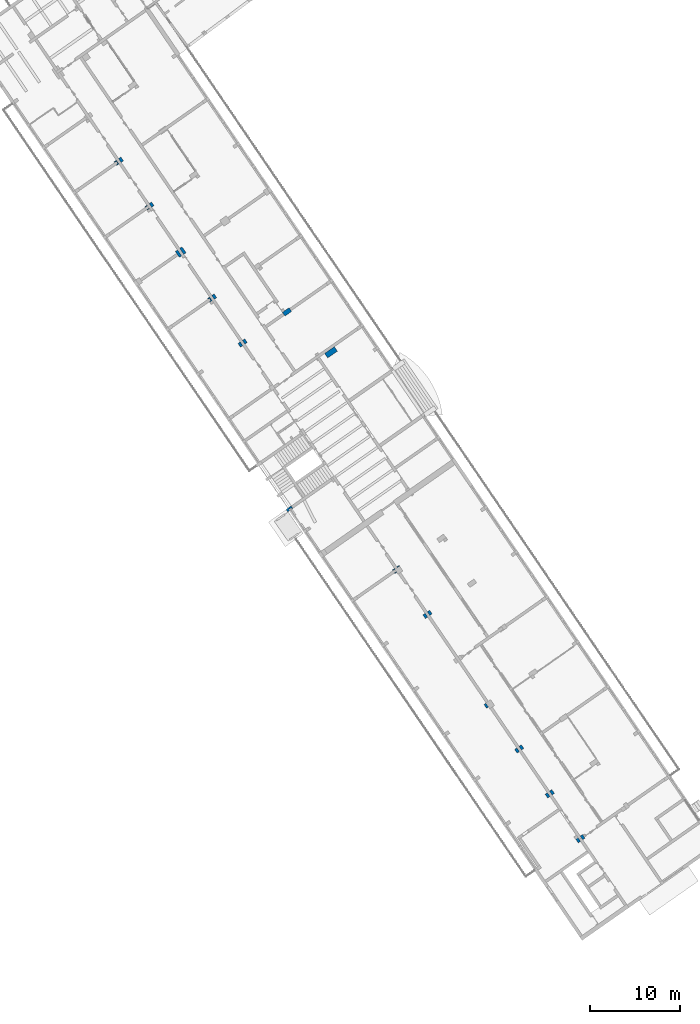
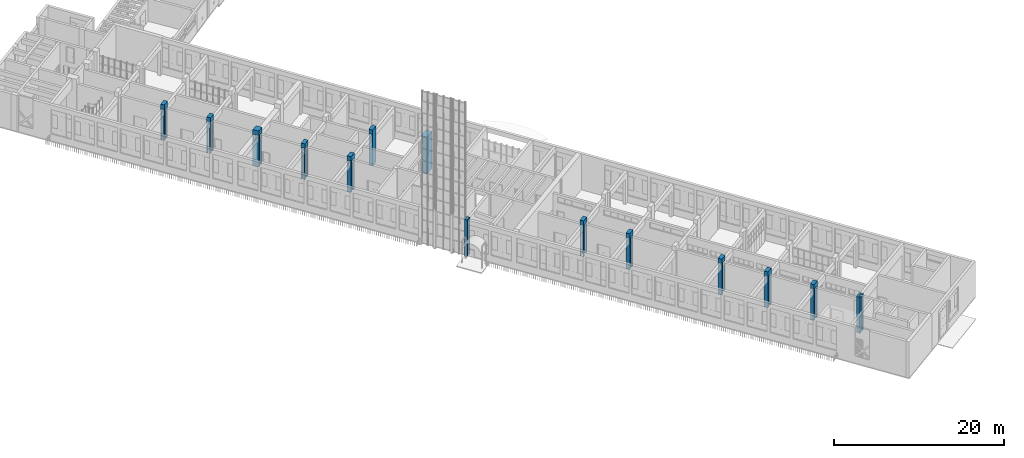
# One storey, part 114 of 157: 14 columns.
"""IFC2X3 building model written with IfcOpenShell, lengths in millimetres."""

from ifc_helpers import new_model, entity, si_unit, converted_unit, derived_unit, direction, frame, origin, place, context, subcontext, project, spatial, faceted_brep, source, transform, mapped, material, type_object, type_shapes, element, save


model = new_model("IFC2X3")

# Units and contexts
model_context = context("Model", 3, precision=0.01, world=origin(), true_north=direction((6.123031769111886e-17, 1.0)))
body_context = subcontext(model_context, "Body", "Model", "MODEL_VIEW")
ifc_project = project(units=[si_unit("LENGTHUNIT", "METRE", prefix="MILLI"), si_unit("AREAUNIT", "SQUARE_METRE"), si_unit("VOLUMEUNIT", "CUBIC_METRE"), converted_unit("PLANEANGLEUNIT", "DEGREE", entity("IfcRatioMeasure", 0.017453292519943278), si_unit("PLANEANGLEUNIT", "RADIAN"), dimensions=[0, 0, 0, 0, 0, 0, 0]), si_unit("MASSUNIT", "GRAM", prefix="KILO"), derived_unit("MASSDENSITYUNIT", [(si_unit("MASSUNIT", "GRAM", prefix="KILO"), 1), (si_unit("LENGTHUNIT", "METRE"), -3)]), derived_unit("MOMENTOFINERTIAUNIT", [(si_unit("LENGTHUNIT", "METRE"), 4)]), si_unit("TIMEUNIT", "SECOND"), si_unit("FREQUENCYUNIT", "HERTZ"), si_unit("THERMODYNAMICTEMPERATUREUNIT", "DEGREE_CELSIUS"), derived_unit("THERMALTRANSMITTANCEUNIT", [(si_unit("MASSUNIT", "GRAM", prefix="KILO"), 1), (si_unit("THERMODYNAMICTEMPERATUREUNIT", "KELVIN"), -1), (si_unit("TIMEUNIT", "SECOND"), -3)]), derived_unit("THERMALCONDUCTANCEUNIT", [(si_unit("MASSUNIT", "GRAM", prefix="KILO"), 1), (si_unit("LENGTHUNIT", "METRE"), 1), (si_unit("THERMODYNAMICTEMPERATUREUNIT", "KELVIN"), -1), (si_unit("TIMEUNIT", "SECOND"), -3)]), derived_unit("VOLUMETRICFLOWRATEUNIT", [(si_unit("LENGTHUNIT", "METRE"), 3), (si_unit("TIMEUNIT", "SECOND"), -1)]), derived_unit("MASSFLOWRATEUNIT", [(si_unit("MASSUNIT", "GRAM", prefix="KILO"), 1), (si_unit("TIMEUNIT", "SECOND"), -1)]), derived_unit("ROTATIONALFREQUENCYUNIT", [(si_unit("TIMEUNIT", "SECOND"), -1)]), si_unit("ELECTRICCURRENTUNIT", "AMPERE"), si_unit("ELECTRICVOLTAGEUNIT", "VOLT"), si_unit("POWERUNIT", "WATT"), converted_unit("FORCEUNIT", "KIP", entity("IfcRatioMeasure", 2.088543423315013e-05), si_unit("FORCEUNIT", "NEWTON"), dimensions=[1, 1, -2, 0, 0, 0, 0]), si_unit("ILLUMINANCEUNIT", "LUX"), si_unit("LUMINOUSFLUXUNIT", "LUMEN"), si_unit("LUMINOUSINTENSITYUNIT", "CANDELA"), derived_unit("USERDEFINED", [(si_unit("MASSUNIT", "GRAM", prefix="KILO"), -1), (si_unit("LENGTHUNIT", "METRE"), -2), (si_unit("TIMEUNIT", "SECOND"), 3), (si_unit("LUMINOUSFLUXUNIT", "LUMEN"), 1)]), derived_unit("USERDEFINED", [(si_unit("MASSUNIT", "GRAM", prefix="KILO"), 1), (si_unit("LENGTHUNIT", "METRE"), 3), (si_unit("TIMEUNIT", "SECOND"), -3), (si_unit("ELECTRICCURRENTUNIT", "AMPERE"), -2)]), derived_unit("USERDEFINED", [(si_unit("LENGTHUNIT", "METRE"), 2), (si_unit("TIMEUNIT", "SECOND"), -2)]), derived_unit("SOUNDPOWERUNIT", [(si_unit("MASSUNIT", "GRAM", prefix="KILO"), 1), (si_unit("LENGTHUNIT", "METRE"), 2), (si_unit("TIMEUNIT", "SECOND"), -3)]), derived_unit("SOUNDPRESSUREUNIT", [(si_unit("MASSUNIT", "GRAM", prefix="KILO"), 1), (si_unit("LENGTHUNIT", "METRE"), -1), (si_unit("TIMEUNIT", "SECOND"), -2)]), derived_unit("LINEARVELOCITYUNIT", [(si_unit("LENGTHUNIT", "METRE"), 1), (si_unit("TIMEUNIT", "SECOND"), -1)]), si_unit("PRESSUREUNIT", "PASCAL"), derived_unit("USERDEFINED", [(si_unit("LENGTHUNIT", "METRE"), -2), (si_unit("MASSUNIT", "GRAM", prefix="KILO"), 1), (si_unit("TIMEUNIT", "SECOND"), -2)]), derived_unit("LINEARFORCEUNIT", [(si_unit("MASSUNIT", "GRAM", prefix="KILO"), 1), (si_unit("LENGTHUNIT", "METRE"), 1), (si_unit("TIMEUNIT", "SECOND"), -2), (si_unit("LENGTHUNIT", "METRE"), -1)]), derived_unit("PLANARFORCEUNIT", [(si_unit("MASSUNIT", "GRAM", prefix="KILO"), 1), (si_unit("LENGTHUNIT", "METRE"), 1), (si_unit("TIMEUNIT", "SECOND"), -2), (si_unit("LENGTHUNIT", "METRE"), -2)]), derived_unit("SPECIFICHEATCAPACITYUNIT", [(si_unit("LENGTHUNIT", "METRE"), 2), (si_unit("TIMEUNIT", "SECOND"), -2), (si_unit("THERMODYNAMICTEMPERATUREUNIT", "KELVIN"), -1)]), derived_unit("VAPORPERMEABILITYUNIT", [(si_unit("TIMEUNIT", "SECOND"), 1), (si_unit("LENGTHUNIT", "METRE"), -1)]), derived_unit("DYNAMICVISCOSITYUNIT", [(si_unit("MASSUNIT", "GRAM", prefix="KILO"), 1), (si_unit("LENGTHUNIT", "METRE"), -1), (si_unit("TIMEUNIT", "SECOND"), -1)]), derived_unit("THERMALEXPANSIONCOEFFICIENTUNIT", [(si_unit("THERMODYNAMICTEMPERATUREUNIT", "KELVIN"), -1)])], contexts=[model_context])

# Site, building, storey
site_placement = place(None, frame((0.0, 0.0, 0.0), z_axis=(0.0, 0.0, 1.0), x_axis=(0.8191520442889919, 0.5735764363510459, 0.0)))
site = spatial("IfcSite", under=ifc_project, at=site_placement, Name="Default", CompositionType="ELEMENT")
building_placement = place(site_placement, origin())
building = spatial("IfcBuilding", under=site, at=building_placement, CompositionType="ELEMENT")
storey_placement = place(building_placement, origin())
storey = spatial("IfcBuildingStorey", under=building, at=storey_placement, Name="1.EG +0.00", CompositionType="ELEMENT", Elevation=-4.331468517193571e-12)

# Columns
ifc_material = material(Name="Analytical Wall Surface_CJC")
column_type_1 = type_object("IfcColumnType", Name="Columns_Rectangular:90x50", PredefinedType="COLUMN", material=ifc_material)
shared_shape_1 = source(origin(), body_context, "Body", "Brep", [
    faceted_brep([(0.0, 500.0, 5150.0), (0.0, 0.0, 5150.0), (900.0, 0.0, 5150.0), (900.0, 500.0, 5150.0), (0.0, 0.0, 0.0), (0.0, 500.0, 0.0), (302.8655420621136, 500.0, 0.0), (296.4968419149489, 0.0, 0.0), (296.4968419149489, 0.0, 4500.0), (596.5211771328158, 0.0, 4500.0), (596.5211771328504, 0.0, 0.0), (900.0, 0.0, 0.0), (900.0, 500.0, 0.0), (900.0, 425.0, 4500.0), (900.0, 425.0, 3700.0), (900.0, 75.0, 3700.0), (900.0, 75.0, 4500.0), (602.8898772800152, 500.0, 0.0), (602.8898772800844, 500.0, 4500.0), (302.8655420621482, 500.0, 4500.0), (899.5379835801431, 425.0, 4500.0), (899.5379835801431, 425.0, 3700.0), (899.5379835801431, 75.0, 3700.0), (899.5379835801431, 75.0, 4500.0)], [[[0, 1, 2, 3]], [[4, 5, 6, 7]], [[1, 0, 5, 4]], [[2, 1, 4, 7, 8, 9, 10, 11]], [[3, 2, 11, 12], [13, 14, 15, 16]], [[0, 3, 12, 17, 18, 19, 6, 5]], [[20, 21, 14, 13]], [[22, 23, 16, 15]], [[21, 20, 23, 22]], [[21, 22, 15, 14]], [[23, 20, 13, 16]], [[9, 18, 17, 10]], [[19, 8, 7, 6]], [[18, 9, 8, 19]], [[12, 11, 10, 17]]]),
])
type_shapes(column_type_1, [shared_shape_1])
column_1_placement = place(storey_placement, frame((-217910.84327407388, 73146.35891435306, 0.0)))
element("IfcColumn", 1, at=column_1_placement, inside=storey, type_object=column_type_1, material=ifc_material, Name="Columns_Rectangular:90x50", ObjectType="Columns_Rectangular:90x50", context=body_context, shape_type="MappedRepresentation", body=[
    mapped(shared_shape_1, transform((0.0, 0.0, 0.0), scale=1.0)),
])
column_type_2 = type_object("IfcColumnType", Name="Columns_Rectangular:90x50", PredefinedType="COLUMN", material=ifc_material)
shared_shape_2 = source(origin(), body_context, "Body", "Brep", [
    faceted_brep([(0.0, 500.0, 5150.0), (0.0, 0.0, 5150.0), (900.0, 0.0, 5150.0), (900.0, 500.0, 5150.0), (0.0, 0.0, 0.0), (0.0, 500.0, 0.0), (253.14122882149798, 500.0, 0.0), (246.77252867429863, 0.0, 0.0), (246.77252867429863, 0.0, 4500.0), (896.8252549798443, 0.0, 4500.0), (896.8252549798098, 0.0, 0.0), (900.0, 0.0, 0.0), (900.0, 249.24591728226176, 0.0), (900.0, 249.2459172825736, 3700.0), (900.0, 99.51385309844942, 3700.0), (900.0, 99.51385309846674, 4500.0), (900.0, 249.2459172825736, 4500.0), (900.0, 500.0, 4500.0), (253.14122882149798, 500.0, 4500.0), (898.0928027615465, 99.51385309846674, 3700.0), (898.0928027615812, 99.51385309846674, 4500.0)], [[[0, 1, 2, 3]], [[4, 5, 6, 7]], [[1, 0, 5, 4]], [[2, 1, 4, 7, 8, 9, 10, 11]], [[3, 2, 11, 12, 13, 14, 15, 16, 17]], [[0, 3, 17, 18, 6, 5]], [[14, 19, 20, 15]], [[19, 14, 13]], [[15, 20, 16]], [[9, 20, 19, 13, 12, 10]], [[18, 8, 7, 6]], [[20, 9, 8, 18, 17, 16]], [[12, 11, 10]]]),
])
type_shapes(column_type_2, [shared_shape_2])
column_2_placement = place(storey_placement, frame((-217834.39284565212, 79146.35891435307, 0.0)))
element("IfcColumn", 2, at=column_2_placement, inside=storey, type_object=column_type_2, material=ifc_material, Name="Columns_Rectangular:90x50", ObjectType="Columns_Rectangular:90x50", context=body_context, shape_type="MappedRepresentation", body=[
    mapped(shared_shape_2, transform((0.0, 0.0, 0.0), scale=1.0)),
])
column_type_3 = type_object("IfcColumnType", Name="Columns_Rectangular:90x50", PredefinedType="COLUMN", material=ifc_material)
shared_shape_3 = source(origin(), body_context, "Body", "Brep", [
    faceted_brep([(0.0, 500.0, 5150.0), (0.0, 0.0, 5150.0), (900.0, 0.0, 5150.0), (900.0, 500.0, 5150.0), (0.0, 0.0, 0.0), (0.0, 500.0, 0.0), (303.4373178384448, 500.0, 0.0), (297.06861769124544, 0.0, 0.0), (0.0, 74.5073018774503, 4500.0), (0.0, 74.5073018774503, 3700.0), (0.0, 424.50730187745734, 3700.0), (0.0, 424.50730187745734, 4500.0), (297.06861769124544, 0.0, 4500.0), (597.0929529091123, 0.0, 4500.0), (597.092952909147, 0.0, 0.0), (900.0, 0.0, 0.0), (900.0, 500.0, 0.0), (603.4616530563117, 500.0, 0.0), (603.4616530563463, 500.0, 4500.0), (303.43731783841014, 500.0, 4500.0), (0.44344956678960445, 74.5073018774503, 4500.0), (0.44344956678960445, 74.5073018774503, 3700.0), (0.44344956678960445, 424.50730187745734, 3700.0), (0.44344956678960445, 424.50730187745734, 4500.0)], [[[0, 1, 2, 3]], [[4, 5, 6, 7]], [[1, 0, 5, 4], [8, 9, 10, 11]], [[2, 1, 4, 7, 12, 13, 14, 15]], [[3, 2, 15, 16]], [[0, 3, 16, 17, 18, 19, 6, 5]], [[20, 21, 9, 8]], [[22, 23, 11, 10]], [[21, 20, 23, 22]], [[21, 22, 10, 9]], [[23, 20, 8, 11]], [[13, 18, 17, 14]], [[19, 12, 7, 6]], [[18, 13, 12, 19]], [[16, 15, 14, 17]]]),
])
type_shapes(column_type_3, [shared_shape_3])
column_3_placement = place(storey_placement, frame((-217682.15414560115, 91145.39317177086, 0.0)))
element("IfcColumn", 3, at=column_3_placement, inside=storey, type_object=column_type_3, material=ifc_material, Name="Columns_Rectangular:90x50", ObjectType="Columns_Rectangular:90x50", context=body_context, shape_type="MappedRepresentation", body=[
    mapped(shared_shape_3, transform((0.0, 0.0, 0.0), scale=1.0)),
])
column_type_4 = type_object("IfcColumnType", Name="Columns_Rectangular:90x50", PredefinedType="COLUMN", material=ifc_material)
shared_shape_4 = source(origin(), body_context, "Body", "Brep", [
    faceted_brep([(0.0, 500.0, 5150.0), (0.0, 0.0, 5150.0), (900.0, 0.0, 5150.0), (900.0, 500.0, 5150.0), (0.0, 0.0, 0.0), (0.0, 98.05541239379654, 0.0), (246.65292624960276, 98.05541239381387, 0.0), (245.40395521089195, 0.0, 0.0), (0.0, 500.0, 0.0), (0.0, 398.05541239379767, 0.0), (0.0, 398.05541239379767, 3700.0), (0.0, 98.05541239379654, 3700.0), (245.4039552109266, 0.0, 4500.0), (895.456681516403, 0.0, 4500.0), (895.4566815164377, 0.0, 0.0), (900.0, 0.0, 0.0), (900.0, 356.6911911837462, 0.0), (900.0, 356.6911911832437, 3700.0), (900.0, 398.05541239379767, 3700.0), (900.0, 398.05541239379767, 0.0), (900.0, 500.0, 0.0), (601.6049085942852, 500.0, 0.0), (601.6049085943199, 500.0, 4350.0), (301.58057337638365, 500.0, 4350.0), (301.58057337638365, 500.0, 0.0), (246.6529262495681, 98.05541239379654, 3700.0), (250.4741463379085, 398.05541239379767, 0.0), (250.4741463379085, 398.05541239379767, 3700.0), (248.61626046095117, 252.1947317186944, 3700.0), (898.5635384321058, 243.91609306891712, 4500.0), (898.5635384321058, 243.91609306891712, 3700.0), (248.61626046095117, 252.19473171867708, 4500.0), (300.28206435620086, 398.05541239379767, 0.0), (298.41609888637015, 251.56041124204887, 3700.0), (298.41609888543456, 251.56041124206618, 4350.0), (598.391765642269, 247.7395010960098, 4350.0), (598.3917656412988, 247.7395010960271, 3700.0), (300.28206435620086, 398.05541239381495, 3700.0), (600.3063995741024, 398.05541239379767, 3700.0), (600.3063995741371, 398.05541239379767, 0.0)], [[[0, 1, 2, 3]], [[4, 5, 6, 7]], [[1, 0, 8, 9, 10, 11, 5, 4]], [[2, 1, 4, 7, 12, 13, 14, 15]], [[3, 2, 15, 16, 17, 18, 19, 20]], [[0, 3, 20, 21, 22, 23, 24, 8]], [[6, 5, 11, 25]], [[9, 26, 27, 10]], [[25, 11, 10, 27, 28]], [[13, 29, 30, 17, 16, 14]], [[31, 12, 7, 6, 25, 28]], [[29, 13, 12, 31]], [[15, 14, 16]], [[9, 8, 24, 32, 26]], [[30, 29, 31, 28, 33, 34, 35, 36]], [[28, 27, 37, 33]], [[19, 18, 38, 39]], [[35, 22, 21, 39, 38, 36]], [[23, 34, 33, 37, 32, 24]], [[22, 35, 34, 23]], [[20, 19, 39, 21]], [[17, 30, 36, 38, 18]], [[27, 26, 32, 37]]]),
])
type_shapes(column_type_4, [shared_shape_4])
column_4_placement = place(storey_placement, frame((-217603.8606983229, 97146.35891435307, 0.0)))
element("IfcColumn", 4, at=column_4_placement, inside=storey, type_object=column_type_4, material=ifc_material, Name="Columns_Rectangular:90x50", ObjectType="Columns_Rectangular:90x50", context=body_context, shape_type="MappedRepresentation", body=[
    mapped(shared_shape_4, transform((0.0, 0.0, 0.0), scale=1.0)),
])
column_type_5 = type_object("IfcColumnType", Name="Columns_Rectangular:90x50", PredefinedType="COLUMN", material=ifc_material)
shared_shape_5 = source(origin(), body_context, "Body", "Brep", [
    faceted_brep([(0.0, 500.0, 5150.0), (0.0, 0.0, 5150.0), (900.0, 0.0, 5150.0), (900.0, 500.0, 5150.0), (0.0, 0.0, 0.0), (0.0, 500.0, 0.0), (303.25032953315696, 500.0, 0.0), (296.88162938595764, 0.0, 0.0), (296.88162938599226, 0.0, 4500.0), (596.9059646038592, 0.0, 4500.0), (596.9059646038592, 0.0, 0.0), (900.0, 0.0, 0.0), (900.0, 500.0, 0.0), (603.2746647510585, 500.0, 0.0), (603.2746647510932, 500.0, 4500.0), (303.2503295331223, 500.0, 4500.0)], [[[0, 1, 2, 3]], [[4, 5, 6, 7]], [[1, 0, 5, 4]], [[2, 1, 4, 7, 8, 9, 10, 11]], [[3, 2, 11, 12]], [[0, 3, 12, 13, 14, 15, 6, 5]], [[9, 14, 13, 10]], [[15, 8, 7, 6]], [[14, 9, 8, 15]], [[12, 11, 10, 13]]]),
])
type_shapes(column_type_5, [shared_shape_5])
column_5_placement = place(storey_placement, frame((-217987.67096684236, 67144.90622144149, 0.0)))
element("IfcColumn", 5, at=column_5_placement, inside=storey, type_object=column_type_5, material=ifc_material, Name="Columns_Rectangular:90x50", ObjectType="Columns_Rectangular:90x50", context=body_context, shape_type="MappedRepresentation", body=[
    mapped(shared_shape_5, transform((0.0, 0.0, 0.0), scale=1.0)),
])
column_type_6 = type_object("IfcColumnType", Name="Columns_Rectangular:90x50", PredefinedType="COLUMN", material=ifc_material)
shared_shape_6 = source(origin(), body_context, "Body", "Brep", [
    faceted_brep([(0.0, 500.0, 5150.0), (0.0, 0.0, 5150.0), (296.86519876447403, 0.0, 5150.0), (300.0916039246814, 253.30170094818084, 5150.0), (600.0672706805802, 249.4807908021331, 5150.0), (596.8895339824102, 0.0, 5150.0), (900.0, 0.0, 5150.0), (900.0, 500.0, 5150.0), (0.0, 0.0, 0.0), (0.0, 500.0, 0.0), (303.23389891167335, 500.0, 0.0), (300.091603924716, 253.30170094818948, 0.0), (296.86519876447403, 0.0, 0.0), (0.0, 500.0, 4500.0), (900.0, 0.0, 0.0), (900.0, 124.02196497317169, 0.0), (900.0, 424.02196497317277, 0.0), (900.0, 500.0, 0.0), (603.2582341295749, 500.0, 0.0), (603.2582341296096, 500.0, 4500.0), (303.23389891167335, 500.0, 4500.0), (600.0672706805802, 249.4807908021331, 0.0), (596.8895339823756, 0.0, 0.0), (600.0672706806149, 249.4807908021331, 4500.0), (300.091603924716, 253.30170094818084, 4500.0)], [[[0, 1, 2, 3, 4, 5, 6, 7]], [[8, 9, 10, 11, 12]], [[1, 0, 13, 9, 8]], [[1, 8, 12, 2]], [[7, 6, 14, 15, 16, 17]], [[0, 7, 17, 18, 19, 20, 10, 9, 13]], [[21, 22, 5, 4, 23]], [[12, 11, 24, 3, 2]], [[4, 3, 24, 23]], [[23, 19, 18, 21]], [[20, 24, 11, 10]], [[19, 23, 24, 20]], [[17, 16, 15, 14, 22, 21, 18]], [[14, 6, 5, 22]]]),
])
type_shapes(column_type_6, [shared_shape_6])
column_6_placement = place(storey_placement, frame((-218064.04797683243, 61147.33694938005, 0.0)))
element("IfcColumn", 6, at=column_6_placement, inside=storey, type_object=column_type_6, material=ifc_material, Name="Columns_Rectangular:90x50", ObjectType="Columns_Rectangular:90x50", context=body_context, shape_type="MappedRepresentation", body=[
    mapped(shared_shape_6, transform((0.0, 0.0, 0.0), scale=1.0)),
])
column_type_7 = type_object("IfcColumnType", Name="Columns_Rectangular:90x50", PredefinedType="COLUMN", material=ifc_material)
shared_shape_7 = source(origin(), body_context, "Body", "Brep", [
    faceted_brep([(0.0, 500.0, 5150.0), (0.0, 0.0, 5150.0), (900.0, 0.0, 5150.0), (900.0, 500.0, 5150.0), (900.0, 500.0, 0.0), (900.0, 400.0, 0.0), (900.0, 100.0, 0.0), (900.0, 0.0, 0.0), (0.0, 0.0, 0.0), (0.0, 100.0, 0.0), (0.0, 400.0, 0.0), (0.0, 500.0, 0.0), (150.0, 500.0, 0.0), (299.9870458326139, 498.0286851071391, 0.0), (300.012955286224, 500.0, 0.0), (0.0, 425.0, 3700.0), (0.0, 425.0, 4500.0), (0.0, 75.0, 4500.0), (0.0, 75.0, 3700.0), (0.0, 100.0, 3700.0), (0.0, 400.0, 3700.0), (900.0, 425.0, 4500.0), (900.0, 425.0, 3700.0), (900.0, 400.0, 3700.0), (900.0, 100.0, 3700.0), (900.0, 75.0, 3700.0), (900.0, 75.0, 4500.0), (300.0129552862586, 500.0, 4500.0), (150.0, 500.0, 4500.0), (299.9870458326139, 498.0286851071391, 4500.0)], [[[0, 1, 2, 3]], [[4, 5, 6, 7, 8, 9, 10, 11, 12, 13, 14]], [[1, 0, 11, 10, 9, 8], [15, 16, 17, 18, 19, 20]], [[2, 1, 8, 7]], [[3, 2, 7, 6, 5, 4], [21, 22, 23, 24, 25, 26]], [[0, 3, 4, 14, 27, 28, 12, 11]], [[21, 16, 15, 22]], [[25, 18, 17, 26]], [[22, 15, 20, 19, 18, 25, 24, 23]], [[16, 21, 26, 17]], [[13, 29, 27, 14]], [[27, 29, 28]], [[29, 13, 12, 28]]]),
])
type_shapes(column_type_7, [shared_shape_7])
column_7_placement = place(storey_placement, frame((-211219.5341896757, 127446.35891435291, 0.0)))
element("IfcColumn", 7, at=column_7_placement, inside=storey, type_object=column_type_7, material=ifc_material, Name="Columns_Rectangular:90x50", ObjectType="Columns_Rectangular:90x50", context=body_context, shape_type="MappedRepresentation", body=[
    mapped(shared_shape_7, transform((0.0, 0.0, 0.0), scale=1.0)),
])
column_type_8 = type_object("IfcColumnType", Name="Columns_Rectangular:90x50", PredefinedType="COLUMN", material=ifc_material)
shared_shape_8 = source(origin(), body_context, "Body", "Brep", [
    faceted_brep([(0.0, 500.0, 5150.0), (0.0, 0.0, 5150.0), (900.0, 0.0, 5150.0), (900.0, 500.0, 5150.0), (0.0, 398.05541239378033, 0.0), (0.0, 500.0, 0.0), (302.89410726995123, 500.0, 0.0), (296.5287976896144, 0.0, 0.0), (0.0, 0.0, 0.0), (0.0, 98.05541239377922, 0.0), (222.92466731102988, 98.05541239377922, 0.0), (222.92466731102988, 398.05541239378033, 0.0), (0.0, 398.05541239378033, 3700.0), (0.0, 423.05541239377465, 3700.0), (0.0, 423.05541239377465, 4500.0), (0.0, 73.05541239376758, 4500.0), (0.0, 73.05541239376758, 3700.0), (0.0, 98.05541239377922, 3700.0), (296.5287976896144, 0.0, 4500.0), (596.5531070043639, 0.0, 4500.0), (596.5531070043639, 0.0, 0.0), (900.0, 0.0, 0.0), (900.0, 500.0, 0.0), (900.0, 75.0, 3700.0), (900.0, 75.0, 4500.0), (900.0, 425.0, 4500.0), (900.0, 425.0, 3700.0), (602.9184165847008, 500.0, 0.0), (602.9184165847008, 500.0, 4500.0), (302.89410726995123, 500.0, 4500.0), (222.92466731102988, 398.05541239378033, 3700.0), (597.5079034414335, 75.0, 3700.0), (597.5079034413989, 75.0, 4500.0), (601.9636201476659, 425.0, 3700.0), (601.9636201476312, 425.0, 4500.0), (222.92466731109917, 423.05541239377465, 3700.0), (222.92466731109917, 423.05541239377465, 4500.0), (222.92466731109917, 73.05541239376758, 3700.0), (222.92466731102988, 98.05541239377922, 3700.0), (222.92466731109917, 73.05541239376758, 4500.0)], [[[0, 1, 2, 3]], [[4, 5, 6, 7, 8, 9, 10, 11]], [[1, 0, 5, 4, 12, 13, 14, 15, 16, 17, 9, 8]], [[2, 1, 8, 7, 18, 19, 20, 21]], [[3, 2, 21, 22], [23, 24, 25, 26]], [[0, 3, 22, 27, 28, 29, 6, 5]], [[4, 11, 30, 12]], [[23, 31, 32, 24]], [[31, 23, 26, 33]], [[24, 32, 34, 25]], [[19, 32, 31, 33, 34, 28, 27, 20]], [[29, 18, 7, 6]], [[32, 19, 18, 29, 28, 34]], [[22, 21, 20, 27]], [[25, 34, 33, 26]], [[35, 36, 14, 13]], [[37, 38, 17, 16]], [[10, 9, 17, 38]], [[39, 37, 16, 15]], [[10, 38, 30, 11]], [[37, 39, 36, 35, 30, 38]], [[36, 39, 15, 14]], [[30, 35, 13, 12]]]),
])
type_shapes(column_type_8, [shared_shape_8])
column_8_placement = place(storey_placement, frame((-216910.15899901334, 151746.35891435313, 0.0)))
element("IfcColumn", 8, at=column_8_placement, inside=storey, type_object=column_type_8, material=ifc_material, Name="Columns_Rectangular:90x50", ObjectType="Columns_Rectangular:90x50", context=body_context, shape_type="MappedRepresentation", body=[
    mapped(shared_shape_8, transform((0.0, 0.0, 0.0), scale=1.0)),
])
column_type_9 = type_object("IfcColumnType", Name="Columns_Rectangular:90x50", PredefinedType="COLUMN", material=ifc_material)
shared_shape_9 = source(origin(), body_context, "Body", "Brep", [
    faceted_brep([(0.0, 500.0, 5150.0), (0.0, 0.0, 5150.0), (900.0, 0.0, 5150.0), (900.0, 500.0, 5150.0), (0.0, 0.0, 0.0), (0.0, 98.05541239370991, 0.0), (299.1015115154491, 98.05541239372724, 0.0), (297.85320540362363, 0.0, 0.0), (0.0, 500.0, 0.0), (0.0, 398.05541239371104, 0.0), (0.0, 398.05541239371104, 3700.0), (0.0, 98.05541239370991, 3700.0), (0.0, 0.0, 4500.0), (297.8532054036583, 0.0, 4500.0), (597.8775147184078, 0.0, 4500.0), (597.8775147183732, 0.0, 0.0), (900.0, 0.0, 0.0), (900.0, 500.0, 0.0), (900.0, 75.0, 3700.0), (900.0, 75.0, 4500.0), (900.0, 425.0, 4500.0), (900.0, 425.0, 3700.0), (604.24282429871, 500.0, 0.0), (604.2428242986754, 500.0, 4500.0), (304.2185149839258, 500.0, 4500.0), (304.21851498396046, 500.0, 0.0), (302.9206972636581, 398.05541239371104, 3700.0), (302.9206972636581, 398.05541239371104, 0.0), (299.1015115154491, 98.05541239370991, 3700.0), (598.8323111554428, 75.0, 3700.0), (598.8323111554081, 75.0, 4500.0), (603.2880278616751, 425.0, 3700.0), (603.2880278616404, 425.0, 4500.0)], [[[0, 1, 2, 3]], [[4, 5, 6, 7]], [[1, 0, 8, 9, 10, 11, 5, 4, 12]], [[2, 1, 12, 4, 7, 13, 14, 15, 16]], [[3, 2, 16, 17], [18, 19, 20, 21]], [[0, 3, 17, 22, 23, 24, 25, 8]], [[26, 10, 9, 27]], [[10, 26, 28, 11]], [[18, 29, 30, 19]], [[29, 18, 21, 31]], [[19, 30, 32, 20]], [[14, 30, 29, 31, 32, 23, 22, 15]], [[24, 13, 7, 6, 28, 26, 27, 25]], [[30, 14, 13, 24, 23, 32]], [[9, 8, 25, 27]], [[20, 32, 31, 21]], [[11, 28, 6, 5]], [[17, 16, 15, 22]]]),
])
type_shapes(column_type_9, [shared_shape_9])
column_9_placement = place(storey_placement, frame((-216987.8671216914, 145746.35891435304, 0.0)))
element("IfcColumn", 9, at=column_9_placement, inside=storey, type_object=column_type_9, material=ifc_material, Name="Columns_Rectangular:90x50", ObjectType="Columns_Rectangular:90x50", context=body_context, shape_type="MappedRepresentation", body=[
    mapped(shared_shape_9, transform((0.0, 0.0, 0.0), scale=1.0)),
])
column_type_10 = type_object("IfcColumnType", Name="Columns_Rectangular:90x50", PredefinedType="COLUMN", material=ifc_material)
shared_shape_10 = source(origin(), body_context, "Body", "Brep", [
    faceted_brep([(0.0, 500.0, 5150.0), (0.0, 0.0, 5150.0), (900.0, 0.0, 5150.0), (900.0, 500.0, 5150.0), (0.0, 398.0554123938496, 0.0), (0.0, 500.0, 0.0), (303.40143862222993, 500.0, 0.0), (297.0361290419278, 0.0, 0.0), (0.0, 0.0, 0.0), (0.0, 98.05541239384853, 0.0), (187.44269786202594, 98.05541239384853, 0.0), (187.44269786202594, 398.0554123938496, 0.0), (0.0, 398.0554123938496, 3700.0), (0.0, 423.05541239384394, 3700.0), (0.0, 423.05541239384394, 4500.0), (0.0, 73.05541239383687, 4500.0), (0.0, 73.05541239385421, 3700.0), (0.0, 98.05541239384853, 3700.0), (0.0, 0.0, 4500.0), (297.0361290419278, 0.0, 4500.0), (597.0604383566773, 0.0, 4500.0), (597.0604383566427, 0.0, 0.0), (900.0, 0.0, 0.0), (900.0, 500.0, 0.0), (900.0, 75.0, 3700.0), (900.0, 75.0, 4500.0), (900.0, 425.0, 4500.0), (900.0, 425.0, 3700.0), (603.4257479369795, 500.0, 0.0), (603.4257479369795, 500.0, 4500.0), (303.40143862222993, 500.0, 4500.0), (187.44269786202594, 398.0554123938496, 3700.0), (598.0152347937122, 75.0, 3700.0), (598.0152347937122, 75.0, 4500.0), (602.4709514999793, 425.0, 3700.0), (602.4709514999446, 425.0, 4500.0), (302.4218863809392, 423.05541239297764, 4500.0), (302.4218863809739, 423.0554123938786, 3700.0), (297.9661696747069, 73.05541239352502, 3700.0), (297.9661696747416, 73.05541239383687, 4500.0), (187.44269786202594, 98.05541239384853, 3700.0)], [[[0, 1, 2, 3]], [[4, 5, 6, 7, 8, 9, 10, 11]], [[1, 0, 5, 4, 12, 13, 14, 15, 16, 17, 9, 8, 18]], [[2, 1, 18, 8, 7, 19, 20, 21, 22]], [[3, 2, 22, 23], [24, 25, 26, 27]], [[0, 3, 23, 28, 29, 30, 6, 5]], [[4, 11, 31, 12]], [[24, 32, 33, 25]], [[32, 24, 27, 34]], [[25, 33, 35, 26]], [[20, 33, 32, 34, 35, 29, 28, 21]], [[7, 6, 30, 36, 37, 38, 39, 19]], [[33, 20, 19, 39, 36, 30, 29, 35]], [[23, 22, 21, 28]], [[26, 35, 34, 27]], [[36, 14, 13, 37]], [[37, 13, 12, 31, 40, 17, 16, 38]], [[10, 9, 17, 40]], [[38, 16, 15, 39]], [[10, 40, 31, 11]], [[14, 36, 39, 15]]]),
])
type_shapes(column_type_10, [shared_shape_10])
column_10_placement = place(storey_placement, frame((-217143.63666100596, 133446.35891435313, 0.0)))
element("IfcColumn", 10, at=column_10_placement, inside=storey, type_object=column_type_10, material=ifc_material, Name="Columns_Rectangular:90x50", ObjectType="Columns_Rectangular:90x50", context=body_context, shape_type="MappedRepresentation", body=[
    mapped(shared_shape_10, transform((0.0, 0.0, 0.0), scale=1.0)),
])
column_type_11 = type_object("IfcColumnType", Name="Columns_Rectangular:90x50", PredefinedType="COLUMN", material=ifc_material)
shared_shape_11 = source(origin(), body_context, "Body", "Brep", [
    faceted_brep([(0.0, 500.0, 5150.0), (0.0, 0.0, 5150.0), (900.0, 0.0, 5150.0), (900.0, 500.0, 5150.0), (0.0, 0.0, 0.0), (0.0, 500.0, 0.0), (303.40143862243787, 500.0, 0.0), (297.03612904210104, 0.0, 0.0), (0.0, 424.50730187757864, 3700.0), (0.0, 424.50730187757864, 4500.0), (0.0, 74.50730187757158, 4500.0), (0.0, 74.50730187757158, 3700.0), (297.0361290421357, 0.0, 4500.0), (597.0604383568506, 0.0, 4500.0), (597.060438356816, 0.0, 0.0), (900.0, 0.0, 0.0), (900.0, 500.0, 0.0), (900.0, 74.51385309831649, 3700.0), (900.0, 74.51385309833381, 4500.0), (900.0, 424.5138530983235, 4500.0), (900.0, 424.51385309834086, 3700.0), (603.4257479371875, 500.0, 0.0), (603.4257479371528, 500.0, 4500.0), (303.40143862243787, 500.0, 4500.0), (302.4403698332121, 424.50730187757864, 3700.0), (302.4403698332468, 424.50730187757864, 4500.0), (297.9846531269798, 74.50730187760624, 3700.0), (598.0090458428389, 74.51385309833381, 3700.0), (598.0090458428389, 74.51385309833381, 4500.0), (602.4647625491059, 424.51385309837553, 3700.0), (602.4647625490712, 424.51385309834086, 4500.0), (297.9846531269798, 74.50730187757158, 4500.0)], [[[0, 1, 2, 3]], [[4, 5, 6, 7]], [[1, 0, 5, 4], [8, 9, 10, 11]], [[2, 1, 4, 7, 12, 13, 14, 15]], [[3, 2, 15, 16], [17, 18, 19, 20]], [[0, 3, 16, 21, 22, 23, 6, 5]], [[8, 24, 25, 9]], [[24, 8, 11, 26]], [[17, 27, 28, 18]], [[27, 17, 20, 29]], [[18, 28, 30, 19]], [[13, 28, 27, 29, 30, 22, 21, 14]], [[31, 12, 7, 6, 23, 25, 24, 26]], [[28, 13, 12, 31, 25, 23, 22, 30]], [[16, 15, 14, 21]], [[19, 30, 29, 20]], [[26, 11, 10, 31]], [[9, 25, 31, 10]]]),
])
type_shapes(column_type_11, [shared_shape_11])
column_11_placement = place(storey_placement, frame((-217220.01418701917, 127446.84506125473, 0.0)))
element("IfcColumn", 11, at=column_11_placement, inside=storey, type_object=column_type_11, material=ifc_material, Name="Columns_Rectangular:90x50", ObjectType="Columns_Rectangular:90x50", context=body_context, shape_type="MappedRepresentation", body=[
    mapped(shared_shape_11, transform((0.0, 0.0, 0.0), scale=1.0)),
])
column_type_12 = type_object("IfcColumnType", Name="Columns_Rectangular:90x80", PredefinedType="COLUMN", material=ifc_material)
shared_shape_12 = source(origin(), body_context, "Body", "Brep", [
    faceted_brep([(0.0, 800.0, 5150.0), (0.0, 0.0, 5150.0), (900.0, 0.0, 5150.0), (900.0, 800.0, 5150.0), (0.0, 0.0, 0.0), (0.0, 250.0, 0.0), (0.0, 550.0, 0.0), (0.0, 800.0, 0.0), (305.3110314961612, 800.0, 0.0), (295.12653616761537, 0.0, 0.0), (0.0, 75.0, 4500.0), (0.0, 75.0, 3700.0), (0.0, 250.0, 3700.0), (0.0, 550.0, 3700.0), (0.0, 725.0, 3700.0), (0.0, 725.0, 4500.0), (295.12653616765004, 0.0, 4500.0), (595.150845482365, 0.0, 4500.0), (595.150845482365, 0.0, 0.0), (900.0, 0.0, 0.0), (900.0, 800.0, 0.0), (900.0, 75.0, 3700.0), (900.0, 75.0, 4500.0), (900.0, 725.0, 4500.0), (900.0, 725.0, 3700.0), (605.3353408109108, 800.0, 0.0), (605.3353408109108, 800.0, 4500.0), (305.3110314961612, 800.0, 4500.0), (296.081332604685, 75.0, 4500.0), (296.081332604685, 75.0, 3700.0), (604.3805443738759, 725.0, 4500.0), (604.3805443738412, 725.0, 3700.0), (304.3562350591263, 725.0, 4500.0), (596.1056419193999, 75.0, 4500.0), (304.3562350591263, 725.0, 3700.0), (596.1056419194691, 75.0, 3700.0)], [[[0, 1, 2, 3]], [[4, 5, 6, 7, 8, 9]], [[1, 0, 7, 6, 5, 4], [10, 11, 12, 13, 14, 15]], [[2, 1, 4, 9, 16, 17, 18, 19]], [[3, 2, 19, 20], [21, 22, 23, 24]], [[0, 3, 20, 25, 26, 27, 8, 7]], [[11, 10, 28, 29]], [[24, 23, 30, 31]], [[10, 15, 32, 30, 23, 22, 33, 28]], [[14, 13, 12, 11, 29, 34]], [[17, 33, 35, 31, 30, 26, 25, 18]], [[28, 16, 9, 8, 27, 32, 34, 29]], [[26, 30, 32, 27]], [[20, 19, 18, 25]], [[21, 24, 31, 35]], [[33, 17, 16, 28]], [[22, 21, 35, 33]], [[15, 14, 34, 32]]]),
])
type_shapes(column_type_12, [shared_shape_12])
column_12_placement = place(storey_placement, frame((-217065.34335316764, 139446.3589143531, 0.0)))
element("IfcColumn", 12, at=column_12_placement, inside=storey, type_object=column_type_12, material=ifc_material, Name="Columns_Rectangular:90x80", ObjectType="Columns_Rectangular:90x80", context=body_context, shape_type="MappedRepresentation", body=[
    mapped(shared_shape_12, transform((0.0, 0.0, 0.0), scale=1.0)),
])
column_type_13 = type_object("IfcColumnType", Name="Columns_Rectangular:67.5x35", PredefinedType="COLUMN", material=ifc_material)
shared_shape_13 = source(origin(), body_context, "Body", "Brep", [
    faceted_brep([(0.0, 350.0, 5300.0), (0.0, 0.0, 5300.0), (675.0, 0.0, 5300.0), (675.0, 350.0, 5300.0), (0.0, 350.0, 0.0), (675.0, 350.0, 0.0), (675.0, 325.0, 0.0), (675.0, 25.0, 0.0), (675.0, 0.0, 0.0), (553.6428793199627, 0.0, 0.0), (555.8140182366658, 170.54464431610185, 0.0), (205.84237680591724, 175.0, 0.0), (203.61451845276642, 0.0, 0.0), (0.0, 0.0, 0.0), (0.0, 25.0, 0.0), (7.735763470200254, 25.0, 0.0), (7.7357634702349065, 325.0, 0.0), (0.0, 325.0, 0.0), (0.0, 325.0, 250.0), (0.0, 25.0, 250.0), (203.6145184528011, 0.0, 5150.0), (553.6428793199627, 0.0, 5150.0), (555.8140182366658, 170.54464431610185, 5150.0), (205.84237680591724, 175.0, 5150.0), (7.735763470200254, 25.0, 250.0), (7.735763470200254, 325.0, 250.0)], [[[0, 1, 2, 3]], [[4, 5, 6, 7, 8, 9, 10, 11, 12, 13, 14, 15, 16, 17]], [[1, 0, 4, 17, 18, 19, 14, 13]], [[2, 1, 13, 12, 20, 21, 9, 8]], [[3, 2, 8, 7, 6, 5]], [[0, 3, 5, 4]], [[22, 10, 9, 21]], [[11, 23, 20, 12]], [[10, 22, 23, 11]], [[22, 21, 20, 23]], [[19, 24, 15, 14]], [[16, 25, 18, 17]], [[24, 25, 16, 15]], [[25, 24, 19, 18]]]),
])
type_shapes(column_type_13, [shared_shape_13])
column_13_placement = place(storey_placement, frame((-223380.51426439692, 109521.35891435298, 0.0)))
element("IfcColumn", 13, at=column_13_placement, inside=storey, type_object=column_type_13, material=ifc_material, Name="Columns_Rectangular:67.5x35", ObjectType="Columns_Rectangular:67.5x35", context=body_context, shape_type="MappedRepresentation", body=[
    mapped(shared_shape_13, transform((0.0, 0.0, 0.0), scale=1.0)),
])
column_type_14 = type_object("IfcColumnType", Name="Columns_Rectangular:130x80", PredefinedType="COLUMN", material=ifc_material)
shared_shape_14 = source(origin(), body_context, "Body", "Brep", [
    faceted_brep([(0.0, 800.0, 5300.0), (0.0, 0.0, 5300.0), (1300.0, 0.0, 5300.0), (1300.0, 800.0, 5300.0), (1300.0, 0.0, 0.0), (0.0, 0.0, 0.0), (0.0, 600.0, 0.0), (1300.0, 600.0, 0.0), (0.0, 800.0, 5150.0), (0.0, 600.0, 5150.0), (1300.0, 600.0, 5150.0), (1300.0, 800.0, 5150.0)], [[[0, 1, 2, 3]], [[4, 5, 6, 7]], [[1, 0, 8, 9, 6, 5]], [[2, 1, 5, 4]], [[3, 2, 4, 7, 10, 11]], [[0, 3, 11, 8]], [[9, 10, 7, 6]], [[10, 9, 8, 11]]]),
])
type_shapes(column_type_14, [shared_shape_14])
column_14_placement = place(storey_placement, frame((-210005.2916522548, 120946.35891435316, 0.0)))
element("IfcColumn", 14, at=column_14_placement, inside=storey, type_object=column_type_14, material=ifc_material, Name="Columns_Rectangular:130x80", ObjectType="Columns_Rectangular:130x80", context=body_context, shape_type="MappedRepresentation", body=[
    mapped(shared_shape_14, transform((0.0, 0.0, 0.0), scale=1.0)),
])

save(model, "model.ifc")
